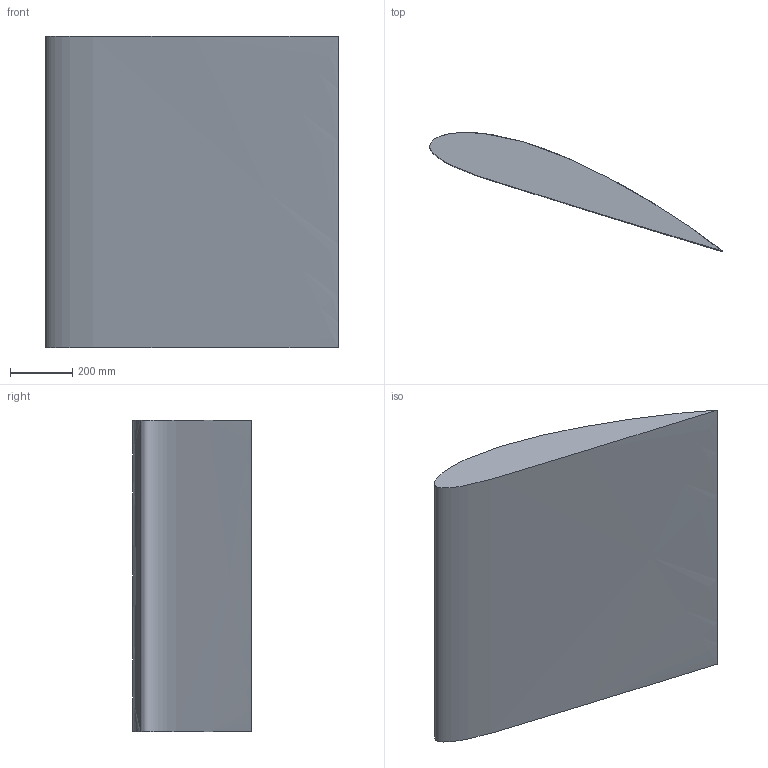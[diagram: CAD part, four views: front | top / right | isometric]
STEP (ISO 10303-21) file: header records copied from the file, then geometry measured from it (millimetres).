
FILE_DESCRIPTION (( 'STEP AP203' ), '1' );
FILE_NAME ('20 degree.STEP', '2018-12-17T17:02:38', ( '' ), ( '' ), 'SwSTEP 2.0', 'SolidWorks 2017', '' );
FILE_SCHEMA (( 'CONFIG_CONTROL_DESIGN' ));
Length unit declared in the file: millimetre
Products named in the file (1): 20 degree
Bounding box: 940.6 x 381.75 x 1000 mm (x, y, z)
Volume: 104286174.8 mm3; surface area: 2270036.7 mm2
Topology: 1 solids, 1 shells, 4 faces, 6 edges, 4 vertices
Faces by surface type: bspline 2, plane 2
Entity records: 559 total; most frequent: CARTESIAN_POINT 421, ORIENTED_EDGE 12, DIRECTION 8, PERSON_AND_ORGANIZATION 8, EDGE_CURVE 6, DATE_AND_TIME 5, CC_DESIGN_PERSON_AND_ORGANIZATION_ASSIGNMENT 5, COORDINATED_UNIVERSAL_TIME_OFFSET 5
